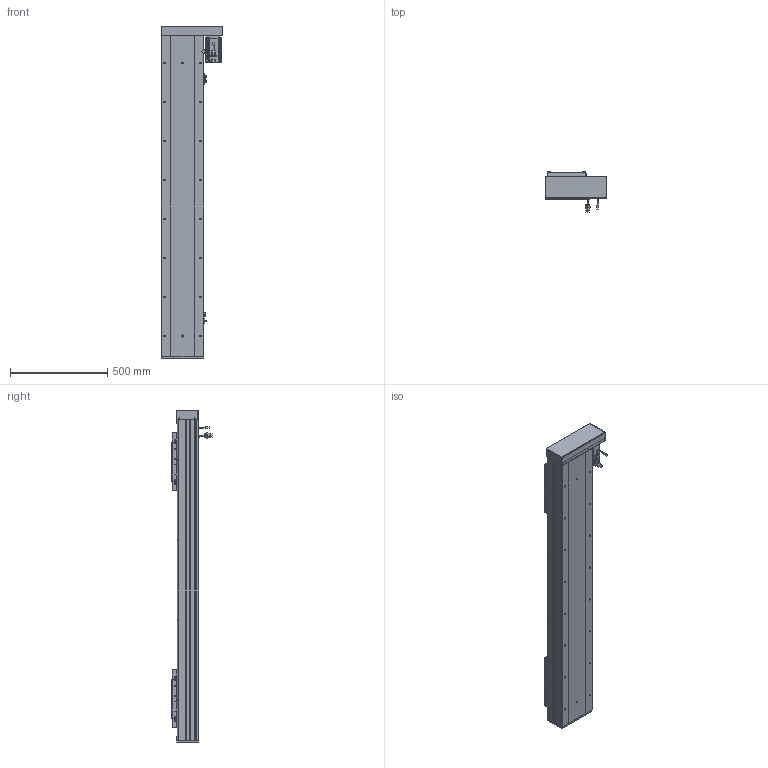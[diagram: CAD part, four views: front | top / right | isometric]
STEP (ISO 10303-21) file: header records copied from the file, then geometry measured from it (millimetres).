
FILE_DESCRIPTION (( 'STEP AP203' ), '1' );
FILE_NAME ('RY220F-L2525-800-RK-邧嶺.SLDASM_1200.step', '2022-08-06T08:19:16', ( '' ), ( '' ), 'SwSTEP 2.0', 'SolidWorks 2016', '' );
FILE_SCHEMA (( 'CONFIG_CONTROL_DESIGN' ));
Length unit declared in the file: millimetre
Products named in the file (15): RY220F-672覜茼んえ; 覜茼ん672; 侐源滅袉蝶; RY220F-蛌殏奻裔啣-800_1200; RY220F綴裔啣; RY220F-滅鳥奻裔; RY220F-L2525-800-RK-邧嶺.SLDASM_1200; RY220酘衵殏萇儂欶; 滅袉蝶18-24; 怢湛750W_ECMA-CX0807ES; RY220F-祥凄詩湍-蛌殏-800_1200; RY220F臏賑釱25-32佪裝; RY220F-詩湍揤踡輸; RY220F蛌殏菁釱-800-邧嶺_1200; RY220左右折电机安装板
Assembly tree (24 placements, depth 2):
  RY220F-L2525-800-RK-邧嶺.SLDASM_1200
    RY220F蛌殏菁釱-800-邧嶺_1200
    RY220F-蛌殏奻裔啣-800_1200  x2
    怢湛750W_ECMA-CX0807ES
    RY220F臏賑釱25-32佪裝  x2
    RY220F-滅鳥奻裔  x2
    滅袉蝶18-24  x3
    RY220F綴裔啣
    RY220F-祥凄詩湍-蛌殏-800_1200
    RY220F-詩湍揤踡輸  x2
    覜茼ん672  x3
    RY220F-672覜茼んえ  x2
    RY220左右折电机安装板
    RY220酘衵殏萇儂欶
    侐源滅袉蝶  x2
Bounding box: 317.5 x 205.27 x 1703 mm (x, y, z)
Volume: 15947251.8 mm3; surface area: 4194109.5 mm2
Topology: 25 solids, 25 shells, 2788 faces, 7580 edges, 4686 vertices
Faces by surface type: cylinder 1258, plane 1044, cone 415, bspline 45, sphere 16, torus 10
Entity records: 69208 total; most frequent: CARTESIAN_POINT 18731, ORIENTED_EDGE 10190, DIRECTION 9932, EDGE_CURVE 5095, AXIS2_PLACEMENT_3D 3538, VERTEX_POINT 3302, VECTOR 2856, LINE 2856
